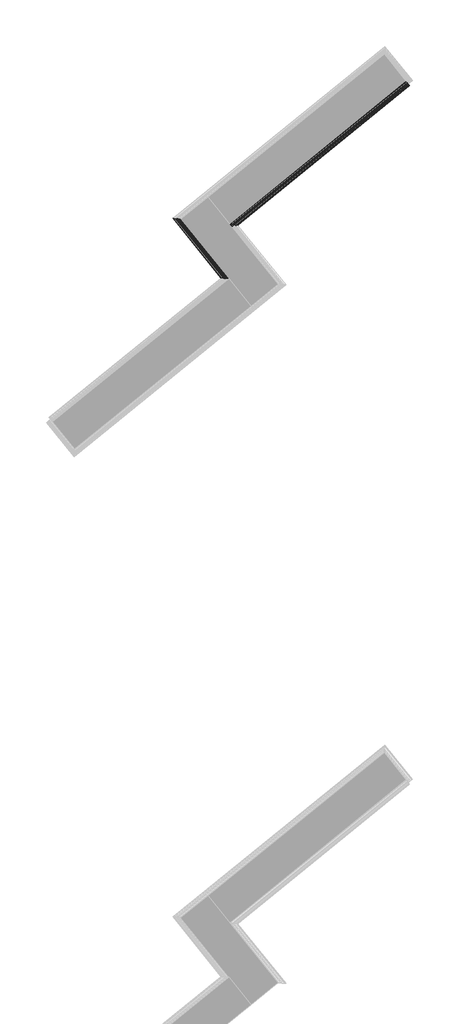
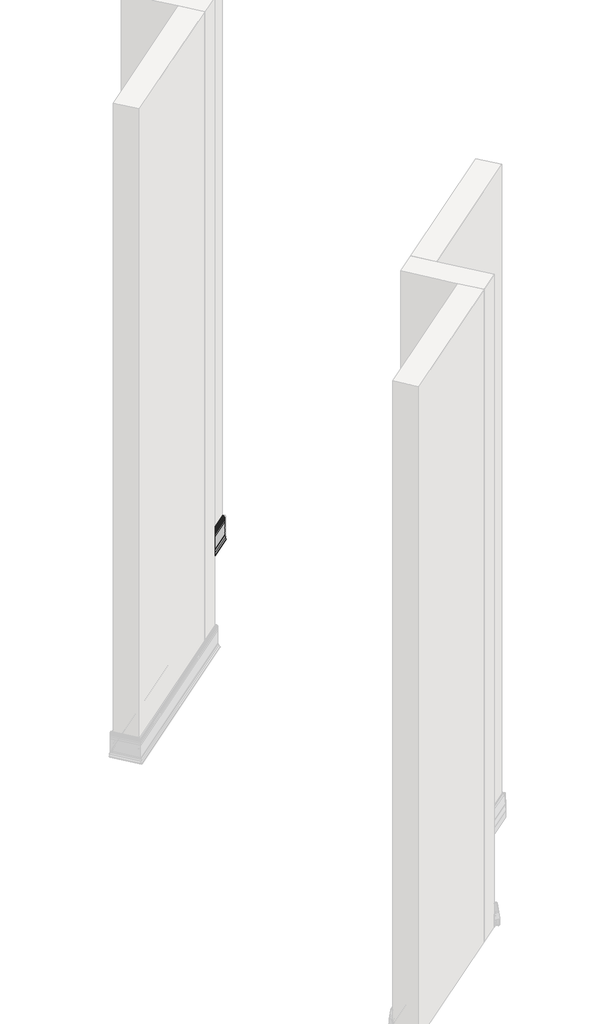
# One storey, part 20 of 21: 2 proxies.
"""IFC4 building model written with IfcOpenShell, lengths in millimetres."""

from ifc_helpers import new_model, si_unit, point, frame, frame_2d, origin, place, context, project, spatial, polyline, circle_curve, ellipse_curve, trimmed, segment, composite_curve, outline, extrude, element, save
from ifc_brep_helpers import plane_surface, cylinder_surface, revolved_surface, advanced_brep

model = new_model("IFC4")

# Units and contexts
model_context = context("Model", 3, world=origin())
ifc_project = project(units=[si_unit("LENGTHUNIT", "METRE", prefix="MILLI")], contexts=[model_context])

# Site, building, storey
site = spatial("IfcSite", under=ifc_project)
building = spatial("IfcBuilding", under=site)
storey = spatial("IfcBuildingStorey", under=building, Name="Izofleks 2D View", Elevation=0.0)

# Proxies
placement = place(None, origin())
element("IfcBuildingElementProxy", 1, Name="Wall Sweeps", at=placement, inside=storey, context=model_context, shape_type="SweptSolid", body=[
    extrude(outline(composite_curve([segment(trimmed(circle_curve(frame_2d((35.3874363, -128.6597831)), 27.6124971), [point((7.7952505, -129.7186894))], [point((8.1315182, -124.2365569))], False, "CARTESIAN"), True, "CONTINUOUS"), segment(trimmed(circle_curve(frame_2d((38.9030643, -130.030324)), 31.3122306), [point((8.1315182, -124.2365569))], [point((10.6248877, -116.5841158))], False, "CARTESIAN"), True, "CONTINUOUS"), segment(trimmed(circle_curve(frame_2d((118.0988408, -167.9445001)), 119.1156566), [point((10.6248877, -116.5841158))], [point((13.5858595, -110.7992779))], False, "CARTESIAN"), True, "CONTINUOUS"), segment(trimmed(circle_curve(frame_2d((12.7084519, -110.3195323)), 1.0), [point((13.5858595, -110.7992779))], [point((12.7084519, -109.3195323))], True, "CARTESIAN"), True, "CONTINUOUS"), segment(polyline([(12.7084519, -109.3195323), (11.6241472, -109.3195323), (11.6241472, -105.5267323), (12.9341472, -105.5267323), (12.9341472, -108.0195323), (14.6385648, -108.0195323)]), True, "CONTINUOUS"), segment(trimmed(circle_curve(frame_2d((14.6385648, -109.3195323)), 1.3), [point((14.6385648, -108.0195323))], [point((15.7763862, -109.9483109))], False, "CARTESIAN"), True, "CONTINUOUS"), segment(trimmed(circle_curve(frame_2d((118.0988408, -167.9445001)), 117.6156566), [point((15.7763862, -109.9483109))], [point((11.9789213, -117.2295576))], True, "CARTESIAN"), True, "CONTINUOUS"), segment(trimmed(circle_curve(frame_2d((38.9030643, -130.030324)), 29.8122306), [point((11.9789213, -117.2295576))], [point((9.6091291, -124.4954837))], True, "CARTESIAN"), True, "CONTINUOUS"), segment(trimmed(circle_curve(frame_2d((35.3874363, -128.6597831)), 26.1124971), [point((9.6091291, -124.4954837))], [point((9.2941471, -129.6611662))], True, "CARTESIAN"), True, "CONTINUOUS"), segment(polyline([(9.2941471, -129.6611662), (9.2941471, -183.3887322), (9.2341472, -192.2497322)]), True, "CONTINUOUS"), segment(trimmed(circle_curve(frame_2d((-74.0678527, -196.3547322)), 83.4030829), [point((9.2341472, -192.2497322))], [point((9.3031616, -198.6673488))], False, "CARTESIAN"), True, "CONTINUOUS"), segment(trimmed(circle_curve(frame_2d((-8.9228778, -198.6780323)), 18.2260425), [point((9.3031616, -198.6673488))], [point((9.0095368, -201.9364265))], False, "CARTESIAN"), True, "CONTINUOUS"), segment(polyline([(9.0095368, -201.9364265), (8.7236108, -203.2607488)]), True, "CONTINUOUS"), segment(trimmed(circle_curve(frame_2d((-8.0627227, -198.9006584)), 17.3433382), [point((8.7236108, -203.2607488))], [point((8.1043581, -205.1789447))], False, "CARTESIAN"), True, "CONTINUOUS"), segment(trimmed(circle_curve(frame_2d((-8.9228778, -198.6780323)), 18.2260425), [point((8.1043581, -205.1789447))], [point((7.0147574, -207.5200009))], False, "CARTESIAN"), True, "CONTINUOUS"), segment(trimmed(circle_curve(frame_2d((1.4826537, -204.31889)), 6.3915008), [point((7.0147574, -207.5200009))], [point((5.4341494, -209.3425306))], False, "CARTESIAN"), True, "CONTINUOUS"), segment(trimmed(circle_curve(frame_2d((3.3505622, -206.7419568)), 3.3323144), [point((5.4341494, -209.3425306))], [point((3.6841477, -210.0575322))], False, "CARTESIAN"), True, "CONTINUOUS"), segment(trimmed(circle_curve(frame_2d((2.9998779, -201.2548784)), 8.8292094), [point((3.6841477, -210.0575322))], [point((1.9341472, -210.0195323))], False, "CARTESIAN"), True, "CONTINUOUS"), segment(polyline([(1.9341472, -210.0195323), (1.9341472, -208.0195323), (-0.0658528, -208.0195323), (-0.0658528, -206.5195323), (3.4341472, -206.5195323), (3.4341472, -208.5723638)]), True, "CONTINUOUS"), segment(trimmed(circle_curve(frame_2d((3.3505621, -206.7419568)), 1.8323144), [point((3.4341472, -208.5723638))], [point((4.5010576, -208.1680481))], True, "CARTESIAN"), True, "CONTINUOUS"), segment(trimmed(circle_curve(frame_2d((1.4826537, -204.31889)), 4.8915008), [point((4.5010576, -208.1680481))], [point((5.7164465, -206.7687429))], True, "CARTESIAN"), True, "CONTINUOUS"), segment(trimmed(circle_curve(frame_2d((-8.9736411, -198.6565601)), 16.7811257), [point((5.7164465, -206.7687429))], [point((6.7030197, -204.6439207))], True, "CARTESIAN"), True, "CONTINUOUS"), segment(trimmed(circle_curve(frame_2d((-21.5934773, -194.3817553)), 30.0998967), [point((6.7030197, -204.6439207))], [point((7.1145183, -203.4291178))], True, "CARTESIAN"), True, "CONTINUOUS"), segment(trimmed(circle_curve(frame_2d((-8.9736411, -198.6565601)), 16.7811257), [point((7.1145183, -203.4291178))], [point((7.8068503, -198.5106495))], True, "CARTESIAN"), True, "CONTINUOUS"), segment(trimmed(circle_curve(frame_2d((-74.0678527, -196.3547323)), 81.9030829), [point((7.8068503, -198.5106495))], [point((7.7341484, -192.2868607))], True, "CARTESIAN"), True, "CONTINUOUS"), segment(polyline([(7.7341484, -192.2868607), (7.7341484, -183.3834432), (7.7852639, -164.7166323), (4.9264919, -164.7166323)]), True, "CONTINUOUS"), segment(trimmed(circle_curve(frame_2d((4.745665, -164.2055314)), 0.5421462), [point((4.9264919, -164.7166323))], [point((4.2126251, -164.3044811))], False, "CARTESIAN"), True, "CONTINUOUS"), segment(polyline([(4.2126251, -164.3044811), (2.301783, -154.0108157)]), True, "CONTINUOUS"), segment(trimmed(circle_curve(frame_2d((2.7941472, -153.9237323)), 0.500006), [point((2.301783, -154.0108157))], [point((2.7965967, -153.4237323))], False, "CARTESIAN"), True, "CONTINUOUS"), segment(polyline([(2.7965967, -153.4237323), (3.6606689, -153.4237323), (4.3401359, -152.9479643), (1.29999, -152.9479643), (1.29999, -159.0610638)]), True, "CONTINUOUS"), segment(trimmed(circle_curve(frame_2d((0.2491905, -159.040022)), 1.0510102), [point((1.29999, -159.0610638))], [point((0.0, -160.0610638))], False, "CARTESIAN"), True, "CONTINUOUS"), segment(polyline([(0.0, -160.0610638), (0.0, -105.0610738), (1.29999, -105.0610738), (1.29999, -122.0610638), (6.2996999, -122.0610638)]), True, "CONTINUOUS"), segment(trimmed(circle_curve(frame_2d((6.1786476, -122.7110688)), 0.6611809), [point((6.2996999, -122.0610638))], [point((6.2996999, -123.3610738))], False, "CARTESIAN"), True, "CONTINUOUS"), segment(polyline([(6.2996999, -123.3610738), (4.6572599, -123.3610738), (6.6113229, -132.2010683)]), True, "CONTINUOUS"), segment(trimmed(circle_curve(frame_2d((6.1231073, -132.3089873)), 0.500001), [point((6.6113229, -132.2010683))], [point((6.1241073, -132.8089873))], False, "CARTESIAN"), True, "CONTINUOUS"), segment(polyline([(6.1241073, -132.8089873), (5.1547151, -132.8089873), (5.3464472, -133.8266223), (7.7952505, -133.8266223), (7.7952505, -129.7186894)]), True, "CONTINUOUS")], self_intersect=False)), frame((10088.0380278, -3173.6542987, -105.0610738), z_axis=(0.7771459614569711, 0.6293203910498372, 0.0), x_axis=(0.6293203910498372, -0.7771459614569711, 0.0)), (0.0, 0.0, 1.0), 650.0),
])
element("IfcBuildingElementProxy", 2, Name="Wall Sweeps", at=placement, inside=storey, context=model_context, shape_type="AdvancedBrep", body=[
    advanced_brep(
    [(9936.4276349, -3157.7194043, 24.6576156), (9935.9546857, -3157.6696953, 19.1754831), (9932.4478454, -3157.3011116, 11.523042), (9928.2833381, -3156.8634042, 5.7382041), (9929.5173824, -3156.9931075, 4.2584585), (9931.0424205, -3157.1533955, 4.2584585), (9931.0424205, -3157.1533955, 0.4656585), (9929.1999496, -3156.959744, 0.4656585), (9929.1999496, -3156.959744, 2.9584585), (9926.8027437, -3156.7077875, 2.9584585), (9925.2024362, -3156.5395884, 4.8872371), (9930.5434427, -3157.1009508, 12.1684838), (9933.8764756, -3157.4512667, 19.4344099), (9934.3194873, -3157.4978291, 24.6000924), (9934.3194873, -3157.4978291, 78.3276584), (9934.4038751, -3157.5066986, 87.1886584), (9934.3068088, -3157.4964965, 93.606275), (9934.7197822, -3157.5399017, 96.8753527), (9935.1219274, -3157.5821689, 98.199675), (9935.9928855, -3157.6737103, 100.1178709), (9937.5253722, -3157.8347811, 102.4589271), (9939.7484442, -3158.0684354, 104.2814568), (9942.2097627, -3158.3271304, 104.9964584), (9944.6710795, -3158.5858252, 104.9584585), (9944.6710795, -3158.5858252, 102.9584585), (9947.4840122, -3158.8814764, 102.9584585), (9947.4840122, -3158.8814764, 101.4584585), (9942.56138, -3158.3640869, 101.4584585), (9942.56138, -3158.3640869, 103.51129), (9941.0608063, -3158.2063702, 103.1069743), (9939.3514029, -3158.0267047, 101.7076691), (9937.9638208, -3157.880864, 99.5828469), (9937.3850618, -3157.8200339, 98.368044), (9936.4113202, -3157.7176896, 93.4495757), (9936.5135729, -3157.7284368, 87.2257869), (9936.5135729, -3157.7284368, 78.3223694), (9936.4416807, -3157.7208806, 59.6555585), (9940.4624474, -3158.1434802, 59.6555585), (9941.466477, -3158.2490079, 59.2434073), (9944.1540121, -3158.5314793, 48.9497419), (9943.4580733, -3158.4583332, 48.3626585), (9942.2427849, -3158.3306012, 48.3626585), (9941.2871374, -3158.2301586, 47.8868905), (9945.5630003, -3158.6795699, 47.8868905), (9945.5630003, -3158.6795699, 53.99999), (9947.3913925, -3158.8717417, 54.99999), (9947.3913925, -3158.8717417, 0.0), (9945.5630003, -3158.6795699, 0.0), (9945.5630003, -3158.6795699, 16.99999), (9938.5310764, -3157.9404849, 16.99999), (9938.5310764, -3157.9404849, 18.3), (9940.841113, -3158.1832795, 18.3), (9938.0927892, -3157.8944191, 27.1399945), (9938.7780416, -3157.966442, 27.7479135), (9940.1414591, -3158.109743, 27.7479135), (9939.8717944, -3158.0814, 28.7655485), (9936.4276349, -3157.7194043, 28.7655485), (10074.878121, -3328.6915158, 24.6576156), (10074.878121, -3328.6915158, 28.7655485), (10078.3222804, -3329.0535116, 28.7655485), (10078.5919451, -3329.0818545, 27.7479135), (10077.2285276, -3328.9385535, 27.7479135), (10076.5432753, -3328.8665306, 27.1399945), (10079.291599, -3329.1553911, 18.3), (10076.9815625, -3328.9125964, 18.3), (10076.9815625, -3328.9125964, 16.99999), (10084.0134863, -3329.6516814, 16.99999), (10084.0134863, -3329.6516814, 0.0), (10085.8418785, -3329.8438532, 0.0), (10085.8418785, -3329.8438532, 54.99999), (10084.0134863, -3329.6516814, 53.99999), (10084.0134863, -3329.6516814, 47.8868905), (10079.7376234, -3329.2022701, 47.8868905), (10080.6932709, -3329.3027127, 48.3626585), (10081.9085593, -3329.4304447, 48.3626585), (10082.6044981, -3329.5035908, 48.9497419), (10079.916963, -3329.2211195, 59.2434073), (10078.9129334, -3329.1155917, 59.6555585), (10074.8921667, -3328.6929921, 59.6555585), (10074.964059, -3328.7005483, 78.3223694), (10074.964059, -3328.7005483, 87.2257869), (10074.8618063, -3328.6898011, 93.4495757), (10075.8355479, -3328.7921454, 98.368044), (10076.4143069, -3328.8529755, 99.5828469), (10077.8018889, -3328.9988162, 101.7076691), (10079.5112924, -3329.1784818, 103.1069743), (10081.011866, -3329.3361984, 103.51129), (10081.011866, -3329.3361984, 101.4584585), (10085.9344982, -3329.8535879, 101.4584585), (10085.9344982, -3329.8535879, 102.9584585), (10083.1215655, -3329.5579368, 102.9584585), (10083.1215655, -3329.5579368, 104.9584585), (10080.6602487, -3329.2992419, 104.9964584), (10078.1989303, -3329.0405469, 104.2814568), (10075.9758582, -3328.8068927, 102.4589271), (10074.4433715, -3328.6458218, 100.1178709), (10073.5724134, -3328.5542804, 98.199675), (10073.1702682, -3328.5120133, 96.8753527), (10072.7572948, -3328.468608, 93.606275), (10072.8543611, -3328.4788101, 87.1886584), (10072.7699733, -3328.4699406, 78.3276584), (10072.7699733, -3328.4699406, 24.6000924), (10072.3269617, -3328.4233782, 19.4344099), (10068.9939287, -3328.0730623, 12.1684838), (10063.6529222, -3327.5116999, 4.8872371), (10065.2532297, -3327.679899, 2.9584585), (10067.6504356, -3327.9318555, 2.9584585), (10067.6504356, -3327.9318555, 0.4656585), (10069.4929066, -3328.125507, 0.4656585), (10069.4929066, -3328.125507, 4.2584585), (10067.9678684, -3327.965219, 4.2584585), (10066.7338242, -3327.8355157, 5.7382041), (10070.8983314, -3328.2732231, 11.523042), (10074.4051717, -3328.6418069, 19.1754831)],
    [
        (0, 1, ellipse_curve(frame((9897.6201541, -3153.6405737, 23.5987093), z_axis=(0.10452846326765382, 0.9945218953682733, 0.0), x_axis=(-0.9945218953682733, 0.10452846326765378, 0.0)), 39.0499679, 27.6124971)),
        (1, 2, ellipse_curve(frame((9892.6755416, -3153.120874, 24.9692502), z_axis=(0.10452846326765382, 0.9945218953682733, 0.0), x_axis=(-0.9945218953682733, 0.10452846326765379, 0.0)), 44.2821811, 31.3122306)),
        (2, 3, ellipse_curve(frame((9781.2893467, -3141.4137132, 62.8834263), z_axis=(0.10452846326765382, 0.9945218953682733, 0.0), x_axis=(-0.9945218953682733, 0.10452846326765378, 0.0)), 168.4549771, 119.1156566)),
        (3, 4, ellipse_curve(frame((9929.5173824, -3156.9931075, 5.2584585), z_axis=(-0.10452846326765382, -0.9945218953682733, 0.0), x_axis=(0.9945218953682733, -0.10452846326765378, 0.0)), 1.4142136, 1.0)),
        (4, 5),
        (5, 6),
        (6, 7),
        (7, 8),
        (8, 9),
        (9, 10, ellipse_curve(frame((9926.8027437, -3156.7077875, 4.2584585), z_axis=(0.10452846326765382, 0.9945218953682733, 0.0), x_axis=(-0.9945218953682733, 0.10452846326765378, 0.0)), 1.8384776, 1.3)),
        (10, 11, ellipse_curve(frame((9781.2893467, -3141.4137132, 62.8834263), z_axis=(-0.10452846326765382, -0.9945218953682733, 0.0), x_axis=(0.9945218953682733, -0.10452846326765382, 0.0)), 166.3336568, 117.6156566)),
        (11, 12, ellipse_curve(frame((9892.6755416, -3153.120874, 24.9692502), z_axis=(-0.10452846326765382, -0.9945218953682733, 0.0), x_axis=(0.9945218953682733, -0.10452846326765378, 0.0)), 42.1608608, 29.8122306)),
        (12, 13, ellipse_curve(frame((9897.6201541, -3153.6405737, 23.5987093), z_axis=(-0.10452846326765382, -0.9945218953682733, 0.0), x_axis=(0.9945218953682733, -0.10452846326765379, 0.0)), 36.9286476, 26.1124971)),
        (13, 14),
        (14, 15),
        (15, 16, ellipse_curve(frame((10051.5653352, -3169.8208642, 91.2936584), z_axis=(0.10452846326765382, 0.9945218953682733, 0.0), x_axis=(-0.9945218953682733, 0.10452846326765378, 0.0)), 117.9497709, 83.4030829)),
        (16, 17, ellipse_curve(frame((9959.9411198, -3160.1907712, 93.6169585), z_axis=(0.10452846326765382, 0.9945218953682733, 0.0), x_axis=(-0.9945218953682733, 0.10452846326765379, 0.0)), 25.7755165, 18.2260425)),
        (17, 18),
        (18, 19, ellipse_curve(frame((9958.7313407, -3160.0636182, 93.8395846), z_axis=(0.10452846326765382, 0.9945218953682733, 0.0), x_axis=(-0.9945218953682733, 0.10452846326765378, 0.0)), 24.5271842, 17.3433382)),
        (19, 20, ellipse_curve(frame((9959.9411198, -3160.1907712, 93.6169585), z_axis=(0.10452846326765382, 0.9945218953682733, 0.0), x_axis=(-0.9945218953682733, 0.10452846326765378, 0.0)), 25.7755165, 18.2260425)),
        (20, 21, ellipse_curve(frame((9945.30609, -3158.6525675, 99.2578162), z_axis=(0.10452846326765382, 0.9945218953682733, 0.0), x_axis=(-0.9945218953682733, 0.10452846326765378, 0.0)), 9.0389471, 6.3915008)),
        (21, 22, ellipse_curve(frame((9942.6789395, -3158.3764429, 101.680883), z_axis=(0.10452846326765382, 0.9945218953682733, 0.0), x_axis=(-0.9945218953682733, 0.10452846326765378, 0.0)), 4.7126043, 3.3323144)),
        (22, 23, ellipse_curve(frame((9943.1721651, -3158.428283, 96.1938046), z_axis=(0.10452846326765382, 0.9945218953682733, 0.0), x_axis=(-0.9945218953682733, 0.10452846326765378, 0.0)), 12.4863877, 8.8292094)),
        (23, 24),
        (24, 25),
        (25, 26),
        (26, 27),
        (27, 28),
        (28, 29, ellipse_curve(frame((9942.6789396, -3158.3764429, 101.680883), z_axis=(-0.10452846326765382, -0.9945218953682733, 0.0), x_axis=(0.9945218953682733, -0.10452846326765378, 0.0)), 2.5912839, 1.8323144)),
        (29, 30, ellipse_curve(frame((9945.30609, -3158.6525675, 99.2578162), z_axis=(-0.10452846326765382, -0.9945218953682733, 0.0), x_axis=(0.9945218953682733, -0.10452846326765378, 0.0)), 6.9176268, 4.8915008)),
        (30, 31, ellipse_curve(frame((9960.0125167, -3160.1982753, 93.5954863), z_axis=(-0.10452846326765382, -0.9945218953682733, 0.0), x_axis=(0.9945218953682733, -0.10452846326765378, 0.0)), 23.7320956, 16.7811257)),
        (31, 32, ellipse_curve(frame((9977.7618917, -3162.0638098, 89.3206815), z_axis=(-0.10452846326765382, -0.9945218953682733, 0.0), x_axis=(0.9945218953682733, -0.10452846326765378, 0.0)), 42.5676821, 30.0998967)),
        (32, 33, ellipse_curve(frame((9960.0125167, -3160.1982753, 93.5954863), z_axis=(-0.10452846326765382, -0.9945218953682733, 0.0), x_axis=(0.9945218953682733, -0.10452846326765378, 0.0)), 23.7320956, 16.7811257)),
        (33, 34, ellipse_curve(frame((10051.5653352, -3169.8208642, 91.2936585), z_axis=(-0.10452846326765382, -0.9945218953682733, 0.0), x_axis=(0.9945218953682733, -0.10452846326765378, 0.0)), 115.8284506, 81.9030829)),
        (34, 35),
        (35, 36),
        (36, 37),
        (37, 38, ellipse_curve(frame((9940.7167744, -3158.170211, 59.1444576), z_axis=(0.10452846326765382, 0.9945218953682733, 0.0), x_axis=(-0.9945218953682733, 0.10452846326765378, 0.0)), 0.7667105, 0.5421462)),
        (38, 39),
        (39, 40, ellipse_curve(frame((9943.4615184, -3158.4586953, 48.8626585), z_axis=(0.10452846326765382, 0.9945218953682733, 0.0), x_axis=(-0.9945218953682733, 0.10452846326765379, 0.0)), 0.7071153, 0.500006)),
        (40, 41),
        (41, 42),
        (42, 43),
        (43, 44),
        (44, 45, ellipse_curve(frame((9947.0409144, -3158.8349049, 53.9789482), z_axis=(0.10452846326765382, 0.9945218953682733, 0.0), x_axis=(-0.9945218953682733, 0.10452846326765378, 0.0)), 1.4863528, 1.0510102)),
        (45, 46),
        (46, 47),
        (47, 48),
        (48, 49),
        (49, 50, ellipse_curve(frame((9938.7013325, -3157.9583796, 17.649995), z_axis=(0.10452846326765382, 0.9945218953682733, 0.0), x_axis=(-0.9945218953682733, 0.10452846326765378, 0.0)), 0.935051, 0.6611809)),
        (50, 51),
        (51, 52),
        (52, 53, ellipse_curve(frame((9938.7794481, -3157.9665898, 27.2479135), z_axis=(0.10452846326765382, 0.9945218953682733, 0.0), x_axis=(-0.9945218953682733, 0.10452846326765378, 0.0)), 0.7071082, 0.500001)),
        (53, 54),
        (54, 55),
        (55, 56),
        (56, 0),
        (57, 58),
        (58, 59),
        (59, 60),
        (60, 61),
        (61, 62, ellipse_curve(frame((10077.2299341, -3328.9387013, 27.2479135), z_axis=(-0.10452846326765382, -0.9945218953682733, 0.0), x_axis=(-0.9945218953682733, 0.10452846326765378, 0.0)), 0.7071082, 0.500001)),
        (62, 63),
        (63, 64),
        (64, 65, ellipse_curve(frame((10077.1518186, -3328.9304911, 17.649995), z_axis=(-0.10452846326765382, -0.9945218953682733, 0.0), x_axis=(-0.9945218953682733, 0.10452846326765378, 0.0)), 0.935051, 0.6611809)),
        (65, 66),
        (66, 67),
        (67, 68),
        (68, 69),
        (69, 70, ellipse_curve(frame((10085.4914005, -3329.8070165, 53.9789482), z_axis=(-0.10452846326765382, -0.9945218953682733, 0.0), x_axis=(-0.9945218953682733, 0.10452846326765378, 0.0)), 1.4863528, 1.0510102)),
        (70, 71),
        (71, 72),
        (72, 73),
        (73, 74),
        (74, 75, ellipse_curve(frame((10081.9120045, -3329.4308068, 48.8626585), z_axis=(-0.10452846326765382, -0.9945218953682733, 0.0), x_axis=(-0.9945218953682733, 0.10452846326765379, 0.0)), 0.7071153, 0.500006)),
        (75, 76),
        (76, 77, ellipse_curve(frame((10079.1672604, -3329.1423226, 59.1444576), z_axis=(-0.10452846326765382, -0.9945218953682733, 0.0), x_axis=(-0.9945218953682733, 0.10452846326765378, 0.0)), 0.7667105, 0.5421462)),
        (77, 78),
        (78, 79),
        (79, 80),
        (80, 81, ellipse_curve(frame((10190.0158212, -3340.7929758, 91.2936585), z_axis=(0.10452846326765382, 0.9945218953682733, 0.0), x_axis=(0.9945218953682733, -0.10452846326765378, 0.0)), 115.8284506, 81.9030829)),
        (81, 82, ellipse_curve(frame((10098.4630028, -3331.1703868, 93.5954863), z_axis=(0.10452846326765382, 0.9945218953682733, 0.0), x_axis=(0.9945218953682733, -0.10452846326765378, 0.0)), 23.7320956, 16.7811257)),
        (82, 83, ellipse_curve(frame((10116.2123777, -3333.0359213, 89.3206815), z_axis=(0.10452846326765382, 0.9945218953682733, 0.0), x_axis=(0.9945218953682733, -0.10452846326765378, 0.0)), 42.5676821, 30.0998967)),
        (83, 84, ellipse_curve(frame((10098.4630028, -3331.1703868, 93.5954863), z_axis=(0.10452846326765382, 0.9945218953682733, 0.0), x_axis=(0.9945218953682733, -0.10452846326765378, 0.0)), 23.7320956, 16.7811257)),
        (84, 85, ellipse_curve(frame((10083.756576, -3329.6246791, 99.2578162), z_axis=(0.10452846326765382, 0.9945218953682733, 0.0), x_axis=(0.9945218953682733, -0.10452846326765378, 0.0)), 6.9176268, 4.8915008)),
        (85, 86, ellipse_curve(frame((10081.1294256, -3329.3485544, 101.680883), z_axis=(0.10452846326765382, 0.9945218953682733, 0.0), x_axis=(0.9945218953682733, -0.10452846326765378, 0.0)), 2.5912839, 1.8323144)),
        (86, 87),
        (87, 88),
        (88, 89),
        (89, 90),
        (90, 91),
        (91, 92, ellipse_curve(frame((10081.6226511, -3329.4003945, 96.1938046), z_axis=(-0.10452846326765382, -0.9945218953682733, 0.0), x_axis=(-0.9945218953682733, 0.10452846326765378, 0.0)), 12.4863877, 8.8292094)),
        (92, 93, ellipse_curve(frame((10081.1294256, -3329.3485544, 101.680883), z_axis=(-0.10452846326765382, -0.9945218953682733, 0.0), x_axis=(-0.9945218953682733, 0.10452846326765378, 0.0)), 4.7126043, 3.3323144)),
        (93, 94, ellipse_curve(frame((10083.756576, -3329.6246791, 99.2578162), z_axis=(-0.10452846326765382, -0.9945218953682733, 0.0), x_axis=(-0.9945218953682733, 0.10452846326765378, 0.0)), 9.0389471, 6.3915008)),
        (94, 95, ellipse_curve(frame((10098.3916059, -3331.1628827, 93.6169585), z_axis=(-0.10452846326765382, -0.9945218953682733, 0.0), x_axis=(-0.9945218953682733, 0.10452846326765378, 0.0)), 25.7755165, 18.2260425)),
        (95, 96, ellipse_curve(frame((10097.1818267, -3331.0357298, 93.8395846), z_axis=(-0.10452846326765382, -0.9945218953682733, 0.0), x_axis=(-0.9945218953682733, 0.10452846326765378, 0.0)), 24.5271842, 17.3433382)),
        (96, 97),
        (97, 98, ellipse_curve(frame((10098.3916059, -3331.1628827, 93.6169585), z_axis=(-0.10452846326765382, -0.9945218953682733, 0.0), x_axis=(-0.9945218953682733, 0.10452846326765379, 0.0)), 25.7755165, 18.2260425)),
        (98, 99, ellipse_curve(frame((10190.0158212, -3340.7929758, 91.2936584), z_axis=(-0.10452846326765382, -0.9945218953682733, 0.0), x_axis=(-0.9945218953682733, 0.10452846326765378, 0.0)), 117.9497709, 83.4030829)),
        (99, 100),
        (100, 101),
        (101, 102, ellipse_curve(frame((10036.0706401, -3324.6126852, 23.5987093), z_axis=(0.10452846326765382, 0.9945218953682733, 0.0), x_axis=(0.9945218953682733, -0.10452846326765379, 0.0)), 36.9286476, 26.1124971)),
        (102, 103, ellipse_curve(frame((10031.1260276, -3324.0929855, 24.9692502), z_axis=(0.10452846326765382, 0.9945218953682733, 0.0), x_axis=(0.9945218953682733, -0.10452846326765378, 0.0)), 42.1608608, 29.8122306)),
        (103, 104, ellipse_curve(frame((9919.7398327, -3312.3858247, 62.8834263), z_axis=(0.10452846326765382, 0.9945218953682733, 0.0), x_axis=(0.9945218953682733, -0.10452846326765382, 0.0)), 166.3336568, 117.6156566)),
        (104, 105, ellipse_curve(frame((10065.2532297, -3327.679899, 4.2584585), z_axis=(-0.10452846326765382, -0.9945218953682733, 0.0), x_axis=(-0.9945218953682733, 0.10452846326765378, 0.0)), 1.8384776, 1.3)),
        (105, 106),
        (106, 107),
        (107, 108),
        (108, 109),
        (109, 110),
        (110, 111, ellipse_curve(frame((10067.9678684, -3327.965219, 5.2584585), z_axis=(0.10452846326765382, 0.9945218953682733, 0.0), x_axis=(0.9945218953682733, -0.10452846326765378, 0.0)), 1.4142136, 1.0)),
        (111, 112, ellipse_curve(frame((9919.7398327, -3312.3858247, 62.8834263), z_axis=(-0.10452846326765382, -0.9945218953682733, 0.0), x_axis=(-0.9945218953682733, 0.10452846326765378, 0.0)), 168.4549771, 119.1156566)),
        (112, 113, ellipse_curve(frame((10031.1260276, -3324.0929855, 24.9692502), z_axis=(-0.10452846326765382, -0.9945218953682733, 0.0), x_axis=(-0.9945218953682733, 0.10452846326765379, 0.0)), 44.2821811, 31.3122306)),
        (113, 57, ellipse_curve(frame((10036.0706401, -3324.6126852, 23.5987093), z_axis=(-0.10452846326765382, -0.9945218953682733, 0.0), x_axis=(-0.9945218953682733, 0.10452846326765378, 0.0)), 39.0499679, 27.6124971)),
        (0, 57),
        (113, 1),
        (112, 2),
        (111, 3),
        (110, 4),
        (109, 5),
        (108, 6),
        (107, 7),
        (106, 8),
        (105, 9),
        (104, 10),
        (103, 11),
        (102, 12),
        (101, 13),
        (100, 14),
        (99, 15),
        (98, 16),
        (97, 17),
        (96, 18),
        (95, 19),
        (94, 20),
        (93, 21),
        (92, 22),
        (91, 23),
        (90, 24),
        (89, 25),
        (88, 26),
        (87, 27),
        (86, 28),
        (85, 29),
        (84, 30),
        (83, 31),
        (82, 32),
        (81, 33),
        (80, 34),
        (79, 35),
        (78, 36),
        (77, 37),
        (76, 38),
        (75, 39),
        (74, 40),
        (73, 41),
        (72, 42),
        (71, 43),
        (70, 44),
        (69, 45),
        (68, 46),
        (67, 47),
        (66, 48),
        (65, 49),
        (64, 50),
        (63, 51),
        (62, 52),
        (61, 53),
        (60, 54),
        (59, 55),
        (58, 56),
    ],
    [
        plane_surface(frame((9947.3913925, -3158.8717417, -304.8), z_axis=(0.10452846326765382, 0.9945218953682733, 0.0), x_axis=(0.9945218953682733, -0.10452846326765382, 0.0))),
        plane_surface(frame((10085.8418785, -3329.8438532, 304.8), z_axis=(-0.10452846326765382, -0.9945218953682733, 0.0), x_axis=(-0.9945218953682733, 0.10452846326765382, 0.0))),
        cylinder_surface(frame((9919.8901893, -3181.1417769, 23.5987093), z_axis=(-0.629320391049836, 0.7771459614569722, 0.0), x_axis=(0.776574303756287, 0.628857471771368, 0.038348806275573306)), 27.6124971),
        cylinder_surface(frame((9917.1580332, -3183.3542333, 24.9692502), z_axis=(-0.629320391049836, 0.7771459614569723, 0.0), x_axis=(0.7636350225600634, 0.6183794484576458, -0.18565669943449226)), 31.3122306),
        cylinder_surface(frame((9855.6113553, -3233.1937503, 62.8834263), z_axis=(-0.6293203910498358, 0.7771459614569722, 0.0), x_axis=(0.7011878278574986, 0.5678107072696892, -0.4311921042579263)), 119.1156566),
        revolved_surface(polyline([(10067.915315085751, -3329.2945354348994, 5.738204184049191), (9928.206188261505, -3156.768131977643, 5.738204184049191)]), (9937.5150704, -3166.8694296, 5.2584585), (0.6293203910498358, -0.7771459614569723, 0.0)),
        plane_surface(frame((9929.5173824, -3156.9931075, 4.2584585), z_axis=(0.0, 0.0, 1.0000000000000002), x_axis=(0.6293203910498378, -0.7771459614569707, 0.0))),
        plane_surface(frame((9931.0424205, -3157.1533955, 4.2584585), z_axis=(0.7771459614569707, 0.6293203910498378, 0.0), x_axis=(0.6293203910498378, -0.7771459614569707, 0.0))),
        plane_surface(frame((9931.0424205, -3157.1533955, 0.4656585), z_axis=(0.0, 0.0, -1.0000000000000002), x_axis=(0.6293203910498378, -0.7771459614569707, 0.0))),
        plane_surface(frame((9929.1999496, -3156.959744, 0.4656585), z_axis=(-0.7771459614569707, -0.6293203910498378, 0.0), x_axis=(0.6293203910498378, -0.7771459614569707, 0.0))),
        plane_surface(frame((9929.1999496, -3156.959744, 2.9584585), z_axis=(0.0, 0.0, -1.0000000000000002), x_axis=(0.6293203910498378, -0.7771459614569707, 0.0))),
        cylinder_surface(frame((9936.015091, -3168.084089, 4.2584585), z_axis=(-0.6293203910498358, 0.7771459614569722, 0.0), x_axis=(1.848580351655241e-11, 1.4969508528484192e-11, -1.0)), 1.3),
        revolved_surface(polyline([(10073.277246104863, -3339.3967501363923, 4.887237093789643), (9786.790898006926, -2985.6155734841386, 4.887237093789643)]), (9855.6113553, -3233.1937503, 62.8834263), (0.6293203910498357, -0.7771459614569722, 0.0)),
        revolved_surface(polyline([(10070.811461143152, -3330.3175279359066, 12.168483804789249), (9894.838085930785, -3113.0085072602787, 12.168483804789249)]), (9917.1580332, -3183.3542333, 24.9692502), (0.6293203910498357, -0.7771459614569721, 0.0)),
        revolved_surface(polyline([(10072.537274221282, -3328.6830926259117, 19.434409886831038), (9901.220534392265, -3117.1245377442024, 19.434409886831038)]), (9919.8901893, -3181.1417769, 23.5987093), (0.629320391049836, -0.7771459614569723, 0.0)),
        plane_surface(frame((9934.3194873, -3157.4978291, 24.6000924), z_axis=(-0.7771459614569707, -0.6293203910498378, 0.0), x_axis=(0.6293203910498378, -0.7771459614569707, 0.0))),
        plane_surface(frame((9934.3194873, -3157.4978291, 78.3276584), z_axis=(-0.7771281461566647, -0.6293059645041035, 0.006771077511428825), x_axis=(0.6293203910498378, -0.7771459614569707, 0.0))),
        cylinder_surface(frame((10004.9529251, -3112.2593316, 91.2936584), z_axis=(-0.629320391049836, 0.7771459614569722, 0.0), x_axis=(-0.7762040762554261, -0.6285576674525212, -0.04921880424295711)), 83.4030829),
        cylinder_surface(frame((9954.3257709, -3153.2563927, 93.6169585), z_axis=(-0.629320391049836, 0.7771459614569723, 0.0), x_axis=(-0.7771458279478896, -0.6293202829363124, -0.0005861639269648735)), 18.2260425),
        plane_surface(frame((9934.7197822, -3157.5399017, 96.8753527), z_axis=(-0.7596424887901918, -0.6151463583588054, 0.21104086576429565), x_axis=(0.6293203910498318, -0.7771459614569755, 0.0))),
        cylinder_surface(frame((9953.6573049, -3153.7977059, 93.8395846), z_axis=(-0.629320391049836, 0.7771459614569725, 0.0), x_axis=(-0.7635664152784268, -0.6183238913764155, 0.18612333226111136)), 17.3433382),
        cylinder_surface(frame((9954.3257709, -3153.2563927, 93.6169585), z_axis=(-0.629320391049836, 0.7771459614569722, 0.0), x_axis=(-0.7260296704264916, -0.5879272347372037, 0.35668261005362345)), 18.2260425),
        cylinder_surface(frame((9946.2391542, -3159.8048059, 99.2578162), z_axis=(-0.6293203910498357, 0.7771459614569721, 0.0), x_axis=(-0.6726514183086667, -0.5447023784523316, 0.5008386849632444)), 6.3915008),
        cylinder_surface(frame((9944.7875166, -3160.9803188, 101.680883), z_axis=(-0.6293203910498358, 0.7771459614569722, 0.0), x_axis=(-0.4859239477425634, -0.3934934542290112, 0.7804106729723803)), 3.3323144),
        cylinder_surface(frame((9945.0600495, -3160.759626, 96.1938046), z_axis=(-0.6293203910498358, 0.7771459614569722, 0.0), x_axis=(-0.060229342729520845, -0.04877276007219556, 0.9969922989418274)), 8.8292094),
        plane_surface(frame((9944.6710795, -3158.5858252, 104.9584585), z_axis=(0.7771459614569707, 0.6293203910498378, 0.0), x_axis=(0.6293203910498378, -0.7771459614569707, 0.0))),
        plane_surface(frame((9944.6710795, -3158.5858252, 102.9584585), z_axis=(0.0, 0.0, 1.0000000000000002), x_axis=(0.6293203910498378, -0.7771459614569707, 0.0))),
        plane_surface(frame((9947.4840122, -3158.8814764, 102.9584585), z_axis=(0.7771459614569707, 0.6293203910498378, 0.0), x_axis=(0.6293203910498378, -0.7771459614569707, 0.0))),
        plane_surface(frame((9947.4840122, -3158.8814764, 101.4584585), z_axis=(0.0, 0.0, -1.0000000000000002), x_axis=(0.6293203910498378, -0.7771459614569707, 0.0))),
        plane_surface(frame((9942.56138, -3158.3640869, 101.4584585), z_axis=(-0.7771459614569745, -0.6293203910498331, 0.0), x_axis=(0.6293203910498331, -0.7771459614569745, 0.0))),
        revolved_surface(polyline([(10082.217580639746, -3330.825131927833, 103.51128994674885), (9941.46086897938, -3157.005068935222, 103.51128994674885)]), (9944.7875167, -3160.9803187, 101.680883), (0.629320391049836, -0.7771459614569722, 0.0)),
        revolved_surface(polyline([(10084.484704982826, -3335.3292373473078, 103.10247529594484), (9939.877576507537, -3156.754305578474, 103.10247529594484)]), (9946.2391542, -3159.8048059, 99.2578162), (0.6293203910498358, -0.7771459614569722, 0.0)),
        revolved_surface(polyline([(10097.607365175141, -3353.4565425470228, 101.70766904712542), (9938.035469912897, -3156.401662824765, 101.70766904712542)]), (9954.3652214, -3153.2244464, 93.5954863), (0.629320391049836, -0.7771459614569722, 0.0)),
        revolved_surface(polyline([(10113.164348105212, -3374.235496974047, 99.58284698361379), (9936.828904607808, -3156.4793592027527, 99.58284698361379)]), (9964.1726761, -3145.2825261, 89.3206815), (0.6293203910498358, -0.7771459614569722, 0.0)),
        revolved_surface(polyline([(10096.520859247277, -3354.3363776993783, 98.36804399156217), (9936.948963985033, -3157.2814979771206, 98.36804399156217)]), (9954.3652214, -3153.2244464, 93.5954863), (0.6293203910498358, -0.7771459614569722, 0.0)),
        revolved_surface(polyline([(10177.930506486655, -3455.969046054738, 93.44957570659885), (9936.393460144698, -3157.6956343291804, 93.44957570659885)]), (10004.9529251, -3112.2593316, 91.2936585), (0.6293203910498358, -0.777145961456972, 0.0)),
        plane_surface(frame((9936.5135729, -3157.7284368, 87.2257869), z_axis=(0.7771459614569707, 0.6293203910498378, 0.0), x_axis=(0.6293203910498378, -0.7771459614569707, 0.0))),
        plane_surface(frame((9936.5135729, -3157.7284368, 78.3223694), z_axis=(0.7771430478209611, 0.6293180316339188, -0.0027382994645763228), x_axis=(0.6293203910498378, -0.7771459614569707, 0.0))),
        plane_surface(frame((9936.4416807, -3157.7208806, 59.6555585), z_axis=(0.0, 0.0, 1.0000000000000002), x_axis=(0.6293203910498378, -0.7771459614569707, 0.0))),
        cylinder_surface(frame((9943.7033181, -3161.8582854, 59.1444576), z_axis=(-0.6293203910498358, 0.7771459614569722, 0.0), x_axis=(-0.7771459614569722, -0.6293203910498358, 0.0)), 0.5421462),
        plane_surface(frame((9941.466477, -3158.2490079, 59.2434073), z_axis=(0.7640923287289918, 0.6187497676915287, 0.18251476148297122), x_axis=(0.6293203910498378, -0.7771459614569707, 0.0))),
        cylinder_surface(frame((9945.2199323, -3160.6301555, 48.8626585), z_axis=(-0.629320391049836, 0.7771459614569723, 0.0), x_axis=(0.7652684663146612, 0.6197021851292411, 0.17416479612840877)), 0.500006),
        plane_surface(frame((9943.4580733, -3158.4583332, 48.3626585), z_axis=(0.0, 0.0, -1.0000000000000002), x_axis=(0.6293203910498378, -0.7771459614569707, 0.0))),
        plane_surface(frame((9942.2427849, -3158.3306012, 48.3626585), z_axis=(0.4457526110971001, 0.36096334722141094, -0.8191520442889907), x_axis=(0.6293203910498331, -0.7771459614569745, 0.0))),
        plane_surface(frame((9941.2871374, -3158.2301586, 47.8868905), z_axis=(0.0, 0.0, 1.0000000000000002), x_axis=(0.6293203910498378, -0.7771459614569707, 0.0))),
        plane_surface(frame((9945.5630003, -3158.6795699, 47.8868905), z_axis=(-0.7771459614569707, -0.6293203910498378, 0.0), x_axis=(0.6293203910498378, -0.7771459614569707, 0.0))),
        cylinder_surface(frame((9947.1977351, -3159.0285623, 53.9789482), z_axis=(-0.629320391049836, 0.7771459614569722, 0.0), x_axis=(-0.7769901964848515, -0.6291942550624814, 0.02002058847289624)), 1.0510102),
        plane_surface(frame((9947.3913925, -3158.8717417, 54.99999), z_axis=(0.7771459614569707, 0.6293203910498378, 0.0), x_axis=(0.6293203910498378, -0.7771459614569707, 0.0))),
        plane_surface(frame((9947.3913925, -3158.8717417, 0.0), z_axis=(0.0, 0.0, -1.0000000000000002), x_axis=(0.6293203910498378, -0.7771459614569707, 0.0))),
        plane_surface(frame((9945.5630003, -3158.6795699, 0.0), z_axis=(-0.7771459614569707, -0.6293203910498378, 0.0), x_axis=(0.6293203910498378, -0.7771459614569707, 0.0))),
        plane_surface(frame((9945.5630003, -3158.6795699, 16.99999), z_axis=(0.0, 0.0, -1.0000000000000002), x_axis=(0.6293203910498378, -0.7771459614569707, 0.0))),
        cylinder_surface(frame((9942.5896815, -3162.7600906, 17.649995), z_axis=(-0.629320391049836, 0.7771459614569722, 0.0), x_axis=(-0.1422838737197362, -0.11521920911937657, -0.9830970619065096)), 0.6611809),
        plane_surface(frame((9938.5310764, -3157.9404849, 18.3), z_axis=(0.0, 0.0, 1.0000000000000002), x_axis=(0.6293203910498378, -0.7771459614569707, 0.0))),
        plane_surface(frame((9940.841113, -3158.1832795, 18.3), z_axis=(-0.7588280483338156, -0.6144868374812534, -0.21583771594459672), x_axis=(0.6293203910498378, -0.7771459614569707, 0.0))),
        cylinder_surface(frame((9942.6328444, -3162.725138, 27.2479135), z_axis=(-0.629320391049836, 0.7771459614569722, 0.0), x_axis=(-0.7589775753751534, -0.6146079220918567, -0.21496544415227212)), 0.500001),
        plane_surface(frame((9938.7780416, -3157.966442, 27.7479135), z_axis=(0.0, 0.0, 1.0000000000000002), x_axis=(0.6293203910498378, -0.7771459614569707, 0.0))),
        plane_surface(frame((9940.1414591, -3158.109743, 27.7479135), z_axis=(-0.7637090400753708, -0.6184393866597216, -0.18515190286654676), x_axis=(0.6293203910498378, -0.7771459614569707, 0.0))),
        plane_surface(frame((9939.8717944, -3158.0814, 28.7655485), z_axis=(0.0, 0.0, -1.0000000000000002), x_axis=(0.6293203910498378, -0.7771459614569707, 0.0))),
        plane_surface(frame((9936.4276349, -3157.7194043, 28.7655485), z_axis=(0.7771459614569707, 0.6293203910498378, 0.0), x_axis=(0.6293203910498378, -0.7771459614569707, 0.0))),
    ],
    [
        (0, [[1, 2, 3, 4, 5, 6, 7, 8, 9, 10, 11, 12, 13, 14, 15, 16, 17, 18, 19, 20, 21, 22, 23, 24, 25, 26, 27, 28, 29, 30, 31, 32, 33, 34, 35, 36, 37, 38, 39, 40, 41, 42, 43, 44, 45, 46, 47, 48, 49, 50, 51, 52, 53, 54, 55, 56, 57]]),
        (1, [[58, 59, 60, 61, 62, 63, 64, 65, 66, 67, 68, 69, 70, 71, 72, 73, 74, 75, 76, 77, 78, 79, 80, 81, 82, 83, 84, 85, 86, 87, 88, 89, 90, 91, 92, 93, 94, 95, 96, 97, 98, 99, 100, 101, 102, 103, 104, 105, 106, 107, 108, 109, 110, 111, 112, 113, 114]]),
        (2, [[-1, 115, -114, 116]]),
        (3, [[-2, -116, -113, 117]]),
        (4, [[-3, -117, -112, 118]]),
        (5, [[-4, -118, -111, 119]]),
        (6, [[-5, -119, -110, 120]]),
        (7, [[-6, -120, -109, 121]]),
        (8, [[-7, -121, -108, 122]]),
        (9, [[-8, -122, -107, 123]]),
        (10, [[-9, -123, -106, 124]]),
        (11, [[-10, -124, -105, 125]]),
        (12, [[-11, -125, -104, 126]]),
        (13, [[-12, -126, -103, 127]]),
        (14, [[-13, -127, -102, 128]]),
        (15, [[-14, -128, -101, 129]]),
        (16, [[-15, -129, -100, 130]]),
        (17, [[-16, -130, -99, 131]]),
        (18, [[-17, -131, -98, 132]]),
        (19, [[-18, -132, -97, 133]]),
        (20, [[-19, -133, -96, 134]]),
        (21, [[-20, -134, -95, 135]]),
        (22, [[-21, -135, -94, 136]]),
        (23, [[-22, -136, -93, 137]]),
        (24, [[-23, -137, -92, 138]]),
        (25, [[-24, -138, -91, 139]]),
        (26, [[-25, -139, -90, 140]]),
        (27, [[-26, -140, -89, 141]]),
        (28, [[-27, -141, -88, 142]]),
        (29, [[-28, -142, -87, 143]]),
        (30, [[-29, -143, -86, 144]]),
        (31, [[-30, -144, -85, 145]]),
        (32, [[-31, -145, -84, 146]]),
        (33, [[-32, -146, -83, 147]]),
        (34, [[-33, -147, -82, 148]]),
        (35, [[-34, -148, -81, 149]]),
        (36, [[-35, -149, -80, 150]]),
        (37, [[-36, -150, -79, 151]]),
        (38, [[-37, -151, -78, 152]]),
        (39, [[-38, -152, -77, 153]]),
        (40, [[-39, -153, -76, 154]]),
        (41, [[-40, -154, -75, 155]]),
        (42, [[-41, -155, -74, 156]]),
        (43, [[-42, -156, -73, 157]]),
        (44, [[-43, -157, -72, 158]]),
        (45, [[-44, -158, -71, 159]]),
        (46, [[-45, -159, -70, 160]]),
        (47, [[-46, -160, -69, 161]]),
        (48, [[-47, -161, -68, 162]]),
        (49, [[-48, -162, -67, 163]]),
        (50, [[-49, -163, -66, 164]]),
        (51, [[-50, -164, -65, 165]]),
        (52, [[-51, -165, -64, 166]]),
        (53, [[-52, -166, -63, 167]]),
        (54, [[-53, -167, -62, 168]]),
        (55, [[-54, -168, -61, 169]]),
        (56, [[-55, -169, -60, 170]]),
        (57, [[-56, -170, -59, 171]]),
        (58, [[-57, -171, -58, -115]]),
    ],
),
])

save(model, "model.ifc")
